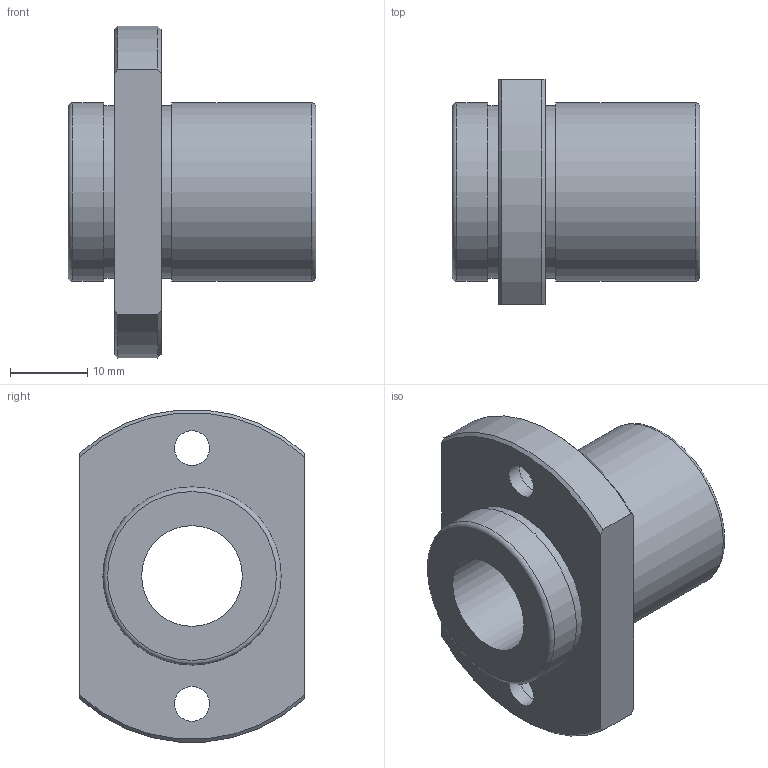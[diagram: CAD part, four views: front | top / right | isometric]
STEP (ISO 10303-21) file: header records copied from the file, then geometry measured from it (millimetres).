
FILE_DESCRIPTION(('STEP AP203'),'1');
FILE_NAME('//192.168.1.1/share/s-4 技術開発/s-4-4_CAD/s-4-4-3_見直し済み/002 修正済み/NFIO-V(済)/NFIO-V_TOP/NFIO-13VUU.step','2022-03-08T01:21:42',(' '),(' '),'Spatial InterOp 3D',' ',' ');
FILE_SCHEMA(('CONFIG_CONTROL_DESIGN'));
Length unit declared in the file: millimetre
Products named in the file (1): 1
Bounding box: 32 x 29 x 42.85 mm (x, y, z)
Volume: 12909.2 mm3; surface area: 6180.9 mm2
Topology: 1 solids, 1 shells, 27 faces, 59 edges, 40 vertices
Faces by surface type: cylinder 11, plane 10, cone 4, torus 2
Full cylindrical faces by diameter (mm): 4.5 x2, 7.5 x2, 13 x1, 22.3 x2, 23 x2
Entity records: 730 total; most frequent: CARTESIAN_POINT 132, DIRECTION 120, ORIENTED_EDGE 88, AXIS2_PLACEMENT_3D 56, EDGE_LOOP 50, EDGE_CURVE 44, FACE_OUTER_BOUND 38, VERTEX_POINT 36
